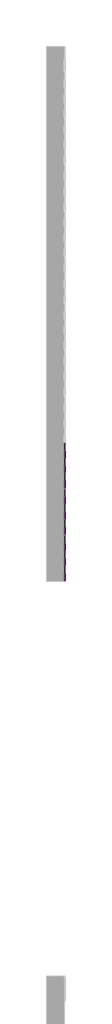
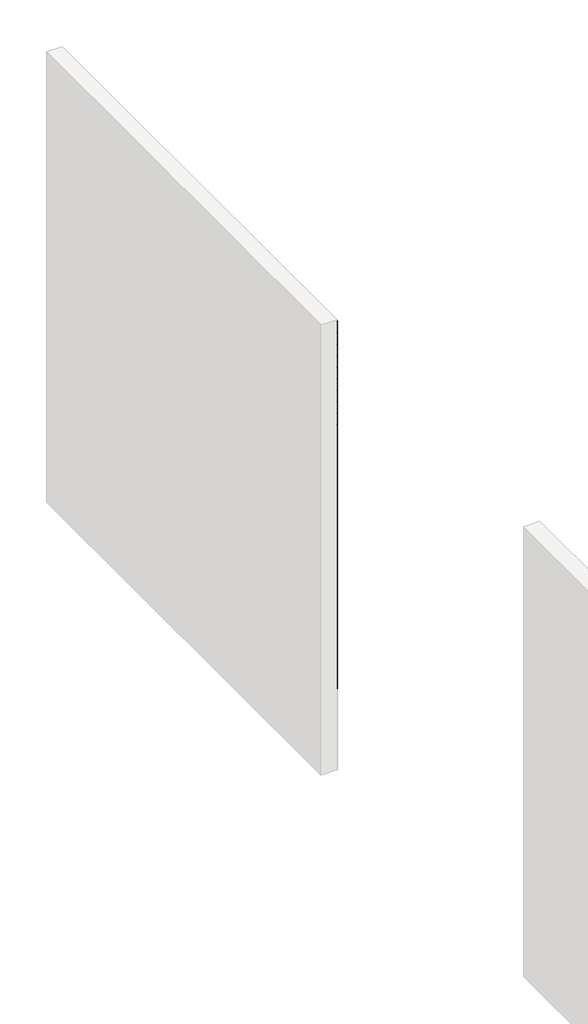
# One storey, part 9 of 45: 147 proxies.
"""IFC4 building model written with IfcOpenShell, lengths in millimetres."""

from ifc_helpers import new_model, si_unit, origin, place, context, project, spatial, transform, mapped, element, save
from components import generic_models_ab0f2c30

model = new_model("IFC4")

# Units and contexts
model_context = context("Model", 3, world=origin())
ifc_project = project(units=[si_unit("LENGTHUNIT", "METRE", prefix="MILLI")], contexts=[model_context])

# Site, building, storey
site = spatial("IfcSite", under=ifc_project)
building = spatial("IfcBuilding", under=site)
storey = spatial("IfcBuildingStorey", under=building, Name="PORTOBELLO - SHOWROOM", Elevation=0.0)

# Proxies
placement = place(None, origin())
generic_models_shape = generic_models_ab0f2c30(model_context)
element("IfcBuildingElementProxy", 1, Name="PBSHOP - HORIZONTES SANTORINI 6,5X23 : SANTORINI VILLA", ObjectType="PBSHOP - HORIZONTES SANTORINI 6,5X23 : SANTORINI VILLA", at=placement, inside=storey, context=model_context, shape_type="MappedRepresentation", body=[
    mapped(generic_models_shape, transform((63939.1036979, 11194.0312463, 34.5), x_axis=(0.0, 0.0, 1.0), y_axis=(0.0, -1.0, 0.0), z_axis=(1.0, 0.0, 0.0))),
])
element("IfcBuildingElementProxy", 2, Name="PBSHOP - HORIZONTES SANTORINI 6,5X23 : SANTORINI VILLA", ObjectType="PBSHOP - HORIZONTES SANTORINI 6,5X23 : SANTORINI VILLA", at=placement, inside=storey, context=model_context, shape_type="MappedRepresentation", body=[
    mapped(generic_models_shape, transform((63939.1036979, 11428.0312463, 34.5), x_axis=(0.0, 0.0, 1.0), y_axis=(0.0, -1.0, 0.0), z_axis=(1.0, 0.0, 0.0))),
])
element("IfcBuildingElementProxy", 3, Name="PBSHOP - HORIZONTES SANTORINI 6,5X23 : SANTORINI VILLA", ObjectType="PBSHOP - HORIZONTES SANTORINI 6,5X23 : SANTORINI VILLA", at=placement, inside=storey, context=model_context, shape_type="MappedRepresentation", body=[
    mapped(generic_models_shape, transform((63939.1036979, 11662.0312463, 34.5), x_axis=(0.0, 0.0, 1.0), y_axis=(0.0, -1.0, 0.0), z_axis=(1.0, 0.0, 0.0))),
])
element("IfcBuildingElementProxy", 4, Name="PBSHOP - HORIZONTES SANTORINI 6,5X23 : SANTORINI VILLA", ObjectType="PBSHOP - HORIZONTES SANTORINI 6,5X23 : SANTORINI VILLA", at=placement, inside=storey, context=model_context, shape_type="MappedRepresentation", body=[
    mapped(generic_models_shape, transform((63939.1036979, 11896.0312463, 34.5), x_axis=(0.0, 0.0, 1.0), y_axis=(0.0, -1.0, 0.0), z_axis=(1.0, 0.0, 0.0))),
])
element("IfcBuildingElementProxy", 5, Name="PBSHOP - HORIZONTES SANTORINI 6,5X23 : SANTORINI VILLA", ObjectType="PBSHOP - HORIZONTES SANTORINI 6,5X23 : SANTORINI VILLA", at=placement, inside=storey, context=model_context, shape_type="MappedRepresentation", body=[
    mapped(generic_models_shape, transform((63939.1036979, 11194.0312463, 103.5), x_axis=(0.0, 0.0, 1.0), y_axis=(0.0, -1.0, 0.0), z_axis=(1.0, 0.0, 0.0))),
])
element("IfcBuildingElementProxy", 6, Name="PBSHOP - HORIZONTES SANTORINI 6,5X23 : SANTORINI VILLA", ObjectType="PBSHOP - HORIZONTES SANTORINI 6,5X23 : SANTORINI VILLA", at=placement, inside=storey, context=model_context, shape_type="MappedRepresentation", body=[
    mapped(generic_models_shape, transform((63939.1036979, 11428.0312463, 103.5), x_axis=(0.0, 0.0, 1.0), y_axis=(0.0, -1.0, 0.0), z_axis=(1.0, 0.0, 0.0))),
])
element("IfcBuildingElementProxy", 7, Name="PBSHOP - HORIZONTES SANTORINI 6,5X23 : SANTORINI VILLA", ObjectType="PBSHOP - HORIZONTES SANTORINI 6,5X23 : SANTORINI VILLA", at=placement, inside=storey, context=model_context, shape_type="MappedRepresentation", body=[
    mapped(generic_models_shape, transform((63939.1036979, 11662.0312463, 103.5), x_axis=(0.0, 0.0, 1.0), y_axis=(0.0, -1.0, 0.0), z_axis=(1.0, 0.0, 0.0))),
])
element("IfcBuildingElementProxy", 8, Name="PBSHOP - HORIZONTES SANTORINI 6,5X23 : SANTORINI VILLA", ObjectType="PBSHOP - HORIZONTES SANTORINI 6,5X23 : SANTORINI VILLA", at=placement, inside=storey, context=model_context, shape_type="MappedRepresentation", body=[
    mapped(generic_models_shape, transform((63939.1036979, 11896.0312463, 103.5), x_axis=(0.0, 0.0, 1.0), y_axis=(0.0, -1.0, 0.0), z_axis=(1.0, 0.0, 0.0))),
])
element("IfcBuildingElementProxy", 9, Name="PBSHOP - HORIZONTES SANTORINI 6,5X23 : SANTORINI VILLA", ObjectType="PBSHOP - HORIZONTES SANTORINI 6,5X23 : SANTORINI VILLA", at=placement, inside=storey, context=model_context, shape_type="MappedRepresentation", body=[
    mapped(generic_models_shape, transform((63939.1036979, 11194.0312463, 172.5), x_axis=(0.0, 0.0, 1.0), y_axis=(0.0, -1.0, 0.0), z_axis=(1.0, 0.0, 0.0))),
])
element("IfcBuildingElementProxy", 10, Name="PBSHOP - HORIZONTES SANTORINI 6,5X23 : SANTORINI VILLA", ObjectType="PBSHOP - HORIZONTES SANTORINI 6,5X23 : SANTORINI VILLA", at=placement, inside=storey, context=model_context, shape_type="MappedRepresentation", body=[
    mapped(generic_models_shape, transform((63939.1036979, 11428.0312463, 172.5), x_axis=(0.0, 0.0, 1.0), y_axis=(0.0, -1.0, 0.0), z_axis=(1.0, 0.0, 0.0))),
])
element("IfcBuildingElementProxy", 11, Name="PBSHOP - HORIZONTES SANTORINI 6,5X23 : SANTORINI VILLA", ObjectType="PBSHOP - HORIZONTES SANTORINI 6,5X23 : SANTORINI VILLA", at=placement, inside=storey, context=model_context, shape_type="MappedRepresentation", body=[
    mapped(generic_models_shape, transform((63939.1036979, 11662.0312463, 172.5), x_axis=(0.0, 0.0, 1.0), y_axis=(0.0, -1.0, 0.0), z_axis=(1.0, 0.0, 0.0))),
])
element("IfcBuildingElementProxy", 12, Name="PBSHOP - HORIZONTES SANTORINI 6,5X23 : SANTORINI VILLA", ObjectType="PBSHOP - HORIZONTES SANTORINI 6,5X23 : SANTORINI VILLA", at=placement, inside=storey, context=model_context, shape_type="MappedRepresentation", body=[
    mapped(generic_models_shape, transform((63939.1036979, 11896.0312463, 172.5), x_axis=(0.0, 0.0, 1.0), y_axis=(0.0, -1.0, 0.0), z_axis=(1.0, 0.0, 0.0))),
])
element("IfcBuildingElementProxy", 13, Name="PBSHOP - HORIZONTES SANTORINI 6,5X23 : SANTORINI VILLA", ObjectType="PBSHOP - HORIZONTES SANTORINI 6,5X23 : SANTORINI VILLA", at=placement, inside=storey, context=model_context, shape_type="MappedRepresentation", body=[
    mapped(generic_models_shape, transform((63939.1036979, 11194.0312463, 241.5), x_axis=(0.0, 0.0, 1.0), y_axis=(0.0, -1.0, 0.0), z_axis=(1.0, 0.0, 0.0))),
])
element("IfcBuildingElementProxy", 14, Name="PBSHOP - HORIZONTES SANTORINI 6,5X23 : SANTORINI VILLA", ObjectType="PBSHOP - HORIZONTES SANTORINI 6,5X23 : SANTORINI VILLA", at=placement, inside=storey, context=model_context, shape_type="MappedRepresentation", body=[
    mapped(generic_models_shape, transform((63939.1036979, 11428.0312463, 241.5), x_axis=(0.0, 0.0, 1.0), y_axis=(0.0, -1.0, 0.0), z_axis=(1.0, 0.0, 0.0))),
])
element("IfcBuildingElementProxy", 15, Name="PBSHOP - HORIZONTES SANTORINI 6,5X23 : SANTORINI VILLA", ObjectType="PBSHOP - HORIZONTES SANTORINI 6,5X23 : SANTORINI VILLA", at=placement, inside=storey, context=model_context, shape_type="MappedRepresentation", body=[
    mapped(generic_models_shape, transform((63939.1036979, 11662.0312463, 241.5), x_axis=(0.0, 0.0, 1.0), y_axis=(0.0, -1.0, 0.0), z_axis=(1.0, 0.0, 0.0))),
])
element("IfcBuildingElementProxy", 16, Name="PBSHOP - HORIZONTES SANTORINI 6,5X23 : SANTORINI VILLA", ObjectType="PBSHOP - HORIZONTES SANTORINI 6,5X23 : SANTORINI VILLA", at=placement, inside=storey, context=model_context, shape_type="MappedRepresentation", body=[
    mapped(generic_models_shape, transform((63939.1036979, 11896.0312463, 241.5), x_axis=(0.0, 0.0, 1.0), y_axis=(0.0, -1.0, 0.0), z_axis=(1.0, 0.0, 0.0))),
])
element("IfcBuildingElementProxy", 17, Name="PBSHOP - HORIZONTES SANTORINI 6,5X23 : SANTORINI VILLA", ObjectType="PBSHOP - HORIZONTES SANTORINI 6,5X23 : SANTORINI VILLA", at=placement, inside=storey, context=model_context, shape_type="MappedRepresentation", body=[
    mapped(generic_models_shape, transform((63939.1036979, 11194.0312463, 310.5), x_axis=(0.0, 0.0, 1.0), y_axis=(0.0, -1.0, 0.0), z_axis=(1.0, 0.0, 0.0))),
])
element("IfcBuildingElementProxy", 18, Name="PBSHOP - HORIZONTES SANTORINI 6,5X23 : SANTORINI VILLA", ObjectType="PBSHOP - HORIZONTES SANTORINI 6,5X23 : SANTORINI VILLA", at=placement, inside=storey, context=model_context, shape_type="MappedRepresentation", body=[
    mapped(generic_models_shape, transform((63939.1036979, 11428.0312463, 310.5), x_axis=(0.0, 0.0, 1.0), y_axis=(0.0, -1.0, 0.0), z_axis=(1.0, 0.0, 0.0))),
])
element("IfcBuildingElementProxy", 19, Name="PBSHOP - HORIZONTES SANTORINI 6,5X23 : SANTORINI VILLA", ObjectType="PBSHOP - HORIZONTES SANTORINI 6,5X23 : SANTORINI VILLA", at=placement, inside=storey, context=model_context, shape_type="MappedRepresentation", body=[
    mapped(generic_models_shape, transform((63939.1036979, 11662.0312463, 310.5), x_axis=(0.0, 0.0, 1.0), y_axis=(0.0, -1.0, 0.0), z_axis=(1.0, 0.0, 0.0))),
])
element("IfcBuildingElementProxy", 20, Name="PBSHOP - HORIZONTES SANTORINI 6,5X23 : SANTORINI VILLA", ObjectType="PBSHOP - HORIZONTES SANTORINI 6,5X23 : SANTORINI VILLA", at=placement, inside=storey, context=model_context, shape_type="MappedRepresentation", body=[
    mapped(generic_models_shape, transform((63939.1036979, 11896.0312463, 310.5), x_axis=(0.0, 0.0, 1.0), y_axis=(0.0, -1.0, 0.0), z_axis=(1.0, 0.0, 0.0))),
])
element("IfcBuildingElementProxy", 21, Name="PBSHOP - HORIZONTES SANTORINI 6,5X23 : SANTORINI VILLA", ObjectType="PBSHOP - HORIZONTES SANTORINI 6,5X23 : SANTORINI VILLA", at=placement, inside=storey, context=model_context, shape_type="MappedRepresentation", body=[
    mapped(generic_models_shape, transform((63939.1036979, 11194.0312463, 379.5), x_axis=(0.0, 0.0, 1.0), y_axis=(0.0, -1.0, 0.0), z_axis=(1.0, 0.0, 0.0))),
])
element("IfcBuildingElementProxy", 22, Name="PBSHOP - HORIZONTES SANTORINI 6,5X23 : SANTORINI VILLA", ObjectType="PBSHOP - HORIZONTES SANTORINI 6,5X23 : SANTORINI VILLA", at=placement, inside=storey, context=model_context, shape_type="MappedRepresentation", body=[
    mapped(generic_models_shape, transform((63939.1036979, 11428.0312463, 379.5), x_axis=(0.0, 0.0, 1.0), y_axis=(0.0, -1.0, 0.0), z_axis=(1.0, 0.0, 0.0))),
])
element("IfcBuildingElementProxy", 23, Name="PBSHOP - HORIZONTES SANTORINI 6,5X23 : SANTORINI VILLA", ObjectType="PBSHOP - HORIZONTES SANTORINI 6,5X23 : SANTORINI VILLA", at=placement, inside=storey, context=model_context, shape_type="MappedRepresentation", body=[
    mapped(generic_models_shape, transform((63939.1036979, 11662.0312463, 379.5), x_axis=(0.0, 0.0, 1.0), y_axis=(0.0, -1.0, 0.0), z_axis=(1.0, 0.0, 0.0))),
])
element("IfcBuildingElementProxy", 24, Name="PBSHOP - HORIZONTES SANTORINI 6,5X23 : SANTORINI VILLA", ObjectType="PBSHOP - HORIZONTES SANTORINI 6,5X23 : SANTORINI VILLA", at=placement, inside=storey, context=model_context, shape_type="MappedRepresentation", body=[
    mapped(generic_models_shape, transform((63939.1036979, 11896.0312463, 379.5), x_axis=(0.0, 0.0, 1.0), y_axis=(0.0, -1.0, 0.0), z_axis=(1.0, 0.0, 0.0))),
])
element("IfcBuildingElementProxy", 25, Name="PBSHOP - HORIZONTES SANTORINI 6,5X23 : SANTORINI VILLA", ObjectType="PBSHOP - HORIZONTES SANTORINI 6,5X23 : SANTORINI VILLA", at=placement, inside=storey, context=model_context, shape_type="MappedRepresentation", body=[
    mapped(generic_models_shape, transform((63939.1036979, 11194.0312463, 448.5), x_axis=(0.0, 0.0, 1.0), y_axis=(0.0, -1.0, 0.0), z_axis=(1.0, 0.0, 0.0))),
])
element("IfcBuildingElementProxy", 26, Name="PBSHOP - HORIZONTES SANTORINI 6,5X23 : SANTORINI VILLA", ObjectType="PBSHOP - HORIZONTES SANTORINI 6,5X23 : SANTORINI VILLA", at=placement, inside=storey, context=model_context, shape_type="MappedRepresentation", body=[
    mapped(generic_models_shape, transform((63939.1036979, 11428.0312463, 448.5), x_axis=(0.0, 0.0, 1.0), y_axis=(0.0, -1.0, 0.0), z_axis=(1.0, 0.0, 0.0))),
])
element("IfcBuildingElementProxy", 27, Name="PBSHOP - HORIZONTES SANTORINI 6,5X23 : SANTORINI VILLA", ObjectType="PBSHOP - HORIZONTES SANTORINI 6,5X23 : SANTORINI VILLA", at=placement, inside=storey, context=model_context, shape_type="MappedRepresentation", body=[
    mapped(generic_models_shape, transform((63939.1036979, 11662.0312463, 448.5), x_axis=(0.0, 0.0, 1.0), y_axis=(0.0, -1.0, 0.0), z_axis=(1.0, 0.0, 0.0))),
])
element("IfcBuildingElementProxy", 28, Name="PBSHOP - HORIZONTES SANTORINI 6,5X23 : SANTORINI VILLA", ObjectType="PBSHOP - HORIZONTES SANTORINI 6,5X23 : SANTORINI VILLA", at=placement, inside=storey, context=model_context, shape_type="MappedRepresentation", body=[
    mapped(generic_models_shape, transform((63939.1036979, 11896.0312463, 448.5), x_axis=(0.0, 0.0, 1.0), y_axis=(0.0, -1.0, 0.0), z_axis=(1.0, 0.0, 0.0))),
])
element("IfcBuildingElementProxy", 29, Name="PBSHOP - HORIZONTES SANTORINI 6,5X23 : SANTORINI VILLA", ObjectType="PBSHOP - HORIZONTES SANTORINI 6,5X23 : SANTORINI VILLA", at=placement, inside=storey, context=model_context, shape_type="MappedRepresentation", body=[
    mapped(generic_models_shape, transform((63939.1036979, 10492.0312463, 517.5), x_axis=(0.0, 0.0, 1.0), y_axis=(0.0, -1.0, 0.0), z_axis=(1.0, 0.0, 0.0))),
])
element("IfcBuildingElementProxy", 30, Name="PBSHOP - HORIZONTES SANTORINI 6,5X23 : SANTORINI VILLA", ObjectType="PBSHOP - HORIZONTES SANTORINI 6,5X23 : SANTORINI VILLA", at=placement, inside=storey, context=model_context, shape_type="MappedRepresentation", body=[
    mapped(generic_models_shape, transform((63939.1036979, 10726.0312463, 517.5), x_axis=(0.0, 0.0, 1.0), y_axis=(0.0, -1.0, 0.0), z_axis=(1.0, 0.0, 0.0))),
])
element("IfcBuildingElementProxy", 31, Name="PBSHOP - HORIZONTES SANTORINI 6,5X23 : SANTORINI VILLA", ObjectType="PBSHOP - HORIZONTES SANTORINI 6,5X23 : SANTORINI VILLA", at=placement, inside=storey, context=model_context, shape_type="MappedRepresentation", body=[
    mapped(generic_models_shape, transform((63939.1036979, 10960.0312463, 517.5), x_axis=(0.0, 0.0, 1.0), y_axis=(0.0, -1.0, 0.0), z_axis=(1.0, 0.0, 0.0))),
])
element("IfcBuildingElementProxy", 32, Name="PBSHOP - HORIZONTES SANTORINI 6,5X23 : SANTORINI VILLA", ObjectType="PBSHOP - HORIZONTES SANTORINI 6,5X23 : SANTORINI VILLA", at=placement, inside=storey, context=model_context, shape_type="MappedRepresentation", body=[
    mapped(generic_models_shape, transform((63939.1036979, 11194.0312463, 517.5), x_axis=(0.0, 0.0, 1.0), y_axis=(0.0, -1.0, 0.0), z_axis=(1.0, 0.0, 0.0))),
])
element("IfcBuildingElementProxy", 33, Name="PBSHOP - HORIZONTES SANTORINI 6,5X23 : SANTORINI VILLA", ObjectType="PBSHOP - HORIZONTES SANTORINI 6,5X23 : SANTORINI VILLA", at=placement, inside=storey, context=model_context, shape_type="MappedRepresentation", body=[
    mapped(generic_models_shape, transform((63939.1036979, 11428.0312463, 517.5), x_axis=(0.0, 0.0, 1.0), y_axis=(0.0, -1.0, 0.0), z_axis=(1.0, 0.0, 0.0))),
])
element("IfcBuildingElementProxy", 34, Name="PBSHOP - HORIZONTES SANTORINI 6,5X23 : SANTORINI VILLA", ObjectType="PBSHOP - HORIZONTES SANTORINI 6,5X23 : SANTORINI VILLA", at=placement, inside=storey, context=model_context, shape_type="MappedRepresentation", body=[
    mapped(generic_models_shape, transform((63939.1036979, 11662.0312463, 517.5), x_axis=(0.0, 0.0, 1.0), y_axis=(0.0, -1.0, 0.0), z_axis=(1.0, 0.0, 0.0))),
])
element("IfcBuildingElementProxy", 35, Name="PBSHOP - HORIZONTES SANTORINI 6,5X23 : SANTORINI VILLA", ObjectType="PBSHOP - HORIZONTES SANTORINI 6,5X23 : SANTORINI VILLA", at=placement, inside=storey, context=model_context, shape_type="MappedRepresentation", body=[
    mapped(generic_models_shape, transform((63939.1036979, 11896.0312463, 517.5), x_axis=(0.0, 0.0, 1.0), y_axis=(0.0, -1.0, 0.0), z_axis=(1.0, 0.0, 0.0))),
])
element("IfcBuildingElementProxy", 36, Name="PBSHOP - HORIZONTES SANTORINI 6,5X23 : SANTORINI VILLA", ObjectType="PBSHOP - HORIZONTES SANTORINI 6,5X23 : SANTORINI VILLA", at=placement, inside=storey, context=model_context, shape_type="MappedRepresentation", body=[
    mapped(generic_models_shape, transform((63939.1036979, 10492.0312463, 586.5), x_axis=(0.0, 0.0, 1.0), y_axis=(0.0, -1.0, 0.0), z_axis=(1.0, 0.0, 0.0))),
])
element("IfcBuildingElementProxy", 37, Name="PBSHOP - HORIZONTES SANTORINI 6,5X23 : SANTORINI VILLA", ObjectType="PBSHOP - HORIZONTES SANTORINI 6,5X23 : SANTORINI VILLA", at=placement, inside=storey, context=model_context, shape_type="MappedRepresentation", body=[
    mapped(generic_models_shape, transform((63939.1036979, 10726.0312463, 586.5), x_axis=(0.0, 0.0, 1.0), y_axis=(0.0, -1.0, 0.0), z_axis=(1.0, 0.0, 0.0))),
])
element("IfcBuildingElementProxy", 38, Name="PBSHOP - HORIZONTES SANTORINI 6,5X23 : SANTORINI VILLA", ObjectType="PBSHOP - HORIZONTES SANTORINI 6,5X23 : SANTORINI VILLA", at=placement, inside=storey, context=model_context, shape_type="MappedRepresentation", body=[
    mapped(generic_models_shape, transform((63939.1036979, 10960.0312463, 586.5), x_axis=(0.0, 0.0, 1.0), y_axis=(0.0, -1.0, 0.0), z_axis=(1.0, 0.0, 0.0))),
])
element("IfcBuildingElementProxy", 39, Name="PBSHOP - HORIZONTES SANTORINI 6,5X23 : SANTORINI VILLA", ObjectType="PBSHOP - HORIZONTES SANTORINI 6,5X23 : SANTORINI VILLA", at=placement, inside=storey, context=model_context, shape_type="MappedRepresentation", body=[
    mapped(generic_models_shape, transform((63939.1036979, 11194.0312463, 586.5), x_axis=(0.0, 0.0, 1.0), y_axis=(0.0, -1.0, 0.0), z_axis=(1.0, 0.0, 0.0))),
])
element("IfcBuildingElementProxy", 40, Name="PBSHOP - HORIZONTES SANTORINI 6,5X23 : SANTORINI VILLA", ObjectType="PBSHOP - HORIZONTES SANTORINI 6,5X23 : SANTORINI VILLA", at=placement, inside=storey, context=model_context, shape_type="MappedRepresentation", body=[
    mapped(generic_models_shape, transform((63939.1036979, 11428.0312463, 586.5), x_axis=(0.0, 0.0, 1.0), y_axis=(0.0, -1.0, 0.0), z_axis=(1.0, 0.0, 0.0))),
])
element("IfcBuildingElementProxy", 41, Name="PBSHOP - HORIZONTES SANTORINI 6,5X23 : SANTORINI VILLA", ObjectType="PBSHOP - HORIZONTES SANTORINI 6,5X23 : SANTORINI VILLA", at=placement, inside=storey, context=model_context, shape_type="MappedRepresentation", body=[
    mapped(generic_models_shape, transform((63939.1036979, 11662.0312463, 586.5), x_axis=(0.0, 0.0, 1.0), y_axis=(0.0, -1.0, 0.0), z_axis=(1.0, 0.0, 0.0))),
])
element("IfcBuildingElementProxy", 42, Name="PBSHOP - HORIZONTES SANTORINI 6,5X23 : SANTORINI VILLA", ObjectType="PBSHOP - HORIZONTES SANTORINI 6,5X23 : SANTORINI VILLA", at=placement, inside=storey, context=model_context, shape_type="MappedRepresentation", body=[
    mapped(generic_models_shape, transform((63939.1036979, 11896.0312463, 586.5), x_axis=(0.0, 0.0, 1.0), y_axis=(0.0, -1.0, 0.0), z_axis=(1.0, 0.0, 0.0))),
])
element("IfcBuildingElementProxy", 43, Name="PBSHOP - HORIZONTES SANTORINI 6,5X23 : SANTORINI VILLA", ObjectType="PBSHOP - HORIZONTES SANTORINI 6,5X23 : SANTORINI VILLA", at=placement, inside=storey, context=model_context, shape_type="MappedRepresentation", body=[
    mapped(generic_models_shape, transform((63939.1036979, 10492.0312463, 655.5), x_axis=(0.0, 0.0, 1.0), y_axis=(0.0, -1.0, 0.0), z_axis=(1.0, 0.0, 0.0))),
])
element("IfcBuildingElementProxy", 44, Name="PBSHOP - HORIZONTES SANTORINI 6,5X23 : SANTORINI VILLA", ObjectType="PBSHOP - HORIZONTES SANTORINI 6,5X23 : SANTORINI VILLA", at=placement, inside=storey, context=model_context, shape_type="MappedRepresentation", body=[
    mapped(generic_models_shape, transform((63939.1036979, 10726.0312463, 655.5), x_axis=(0.0, 0.0, 1.0), y_axis=(0.0, -1.0, 0.0), z_axis=(1.0, 0.0, 0.0))),
])
element("IfcBuildingElementProxy", 45, Name="PBSHOP - HORIZONTES SANTORINI 6,5X23 : SANTORINI VILLA", ObjectType="PBSHOP - HORIZONTES SANTORINI 6,5X23 : SANTORINI VILLA", at=placement, inside=storey, context=model_context, shape_type="MappedRepresentation", body=[
    mapped(generic_models_shape, transform((63939.1036979, 10960.0312463, 655.5), x_axis=(0.0, 0.0, 1.0), y_axis=(0.0, -1.0, 0.0), z_axis=(1.0, 0.0, 0.0))),
])
element("IfcBuildingElementProxy", 46, Name="PBSHOP - HORIZONTES SANTORINI 6,5X23 : SANTORINI VILLA", ObjectType="PBSHOP - HORIZONTES SANTORINI 6,5X23 : SANTORINI VILLA", at=placement, inside=storey, context=model_context, shape_type="MappedRepresentation", body=[
    mapped(generic_models_shape, transform((63939.1036979, 11194.0312463, 655.5), x_axis=(0.0, 0.0, 1.0), y_axis=(0.0, -1.0, 0.0), z_axis=(1.0, 0.0, 0.0))),
])
element("IfcBuildingElementProxy", 47, Name="PBSHOP - HORIZONTES SANTORINI 6,5X23 : SANTORINI VILLA", ObjectType="PBSHOP - HORIZONTES SANTORINI 6,5X23 : SANTORINI VILLA", at=placement, inside=storey, context=model_context, shape_type="MappedRepresentation", body=[
    mapped(generic_models_shape, transform((63939.1036979, 11428.0312463, 655.5), x_axis=(0.0, 0.0, 1.0), y_axis=(0.0, -1.0, 0.0), z_axis=(1.0, 0.0, 0.0))),
])
element("IfcBuildingElementProxy", 48, Name="PBSHOP - HORIZONTES SANTORINI 6,5X23 : SANTORINI VILLA", ObjectType="PBSHOP - HORIZONTES SANTORINI 6,5X23 : SANTORINI VILLA", at=placement, inside=storey, context=model_context, shape_type="MappedRepresentation", body=[
    mapped(generic_models_shape, transform((63939.1036979, 11662.0312463, 655.5), x_axis=(0.0, 0.0, 1.0), y_axis=(0.0, -1.0, 0.0), z_axis=(1.0, 0.0, 0.0))),
])
element("IfcBuildingElementProxy", 49, Name="PBSHOP - HORIZONTES SANTORINI 6,5X23 : SANTORINI VILLA", ObjectType="PBSHOP - HORIZONTES SANTORINI 6,5X23 : SANTORINI VILLA", at=placement, inside=storey, context=model_context, shape_type="MappedRepresentation", body=[
    mapped(generic_models_shape, transform((63939.1036979, 11896.0312463, 655.5), x_axis=(0.0, 0.0, 1.0), y_axis=(0.0, -1.0, 0.0), z_axis=(1.0, 0.0, 0.0))),
])
element("IfcBuildingElementProxy", 50, Name="PBSHOP - HORIZONTES SANTORINI 6,5X23 : SANTORINI VILLA", ObjectType="PBSHOP - HORIZONTES SANTORINI 6,5X23 : SANTORINI VILLA", at=placement, inside=storey, context=model_context, shape_type="MappedRepresentation", body=[
    mapped(generic_models_shape, transform((63939.1036979, 10492.0312463, 724.5), x_axis=(0.0, 0.0, 1.0), y_axis=(0.0, -1.0, 0.0), z_axis=(1.0, 0.0, 0.0))),
])
element("IfcBuildingElementProxy", 51, Name="PBSHOP - HORIZONTES SANTORINI 6,5X23 : SANTORINI VILLA", ObjectType="PBSHOP - HORIZONTES SANTORINI 6,5X23 : SANTORINI VILLA", at=placement, inside=storey, context=model_context, shape_type="MappedRepresentation", body=[
    mapped(generic_models_shape, transform((63939.1036979, 10726.0312463, 724.5), x_axis=(0.0, 0.0, 1.0), y_axis=(0.0, -1.0, 0.0), z_axis=(1.0, 0.0, 0.0))),
])
element("IfcBuildingElementProxy", 52, Name="PBSHOP - HORIZONTES SANTORINI 6,5X23 : SANTORINI VILLA", ObjectType="PBSHOP - HORIZONTES SANTORINI 6,5X23 : SANTORINI VILLA", at=placement, inside=storey, context=model_context, shape_type="MappedRepresentation", body=[
    mapped(generic_models_shape, transform((63939.1036979, 10960.0312463, 724.5), x_axis=(0.0, 0.0, 1.0), y_axis=(0.0, -1.0, 0.0), z_axis=(1.0, 0.0, 0.0))),
])
element("IfcBuildingElementProxy", 53, Name="PBSHOP - HORIZONTES SANTORINI 6,5X23 : SANTORINI VILLA", ObjectType="PBSHOP - HORIZONTES SANTORINI 6,5X23 : SANTORINI VILLA", at=placement, inside=storey, context=model_context, shape_type="MappedRepresentation", body=[
    mapped(generic_models_shape, transform((63939.1036979, 11194.0312463, 724.5), x_axis=(0.0, 0.0, 1.0), y_axis=(0.0, -1.0, 0.0), z_axis=(1.0, 0.0, 0.0))),
])
element("IfcBuildingElementProxy", 54, Name="PBSHOP - HORIZONTES SANTORINI 6,5X23 : SANTORINI VILLA", ObjectType="PBSHOP - HORIZONTES SANTORINI 6,5X23 : SANTORINI VILLA", at=placement, inside=storey, context=model_context, shape_type="MappedRepresentation", body=[
    mapped(generic_models_shape, transform((63939.1036979, 11428.0312463, 724.5), x_axis=(0.0, 0.0, 1.0), y_axis=(0.0, -1.0, 0.0), z_axis=(1.0, 0.0, 0.0))),
])
element("IfcBuildingElementProxy", 55, Name="PBSHOP - HORIZONTES SANTORINI 6,5X23 : SANTORINI VILLA", ObjectType="PBSHOP - HORIZONTES SANTORINI 6,5X23 : SANTORINI VILLA", at=placement, inside=storey, context=model_context, shape_type="MappedRepresentation", body=[
    mapped(generic_models_shape, transform((63939.1036979, 11662.0312463, 724.5), x_axis=(0.0, 0.0, 1.0), y_axis=(0.0, -1.0, 0.0), z_axis=(1.0, 0.0, 0.0))),
])
element("IfcBuildingElementProxy", 56, Name="PBSHOP - HORIZONTES SANTORINI 6,5X23 : SANTORINI VILLA", ObjectType="PBSHOP - HORIZONTES SANTORINI 6,5X23 : SANTORINI VILLA", at=placement, inside=storey, context=model_context, shape_type="MappedRepresentation", body=[
    mapped(generic_models_shape, transform((63939.1036979, 11896.0312463, 724.5), x_axis=(0.0, 0.0, 1.0), y_axis=(0.0, -1.0, 0.0), z_axis=(1.0, 0.0, 0.0))),
])
element("IfcBuildingElementProxy", 57, Name="PBSHOP - HORIZONTES SANTORINI 6,5X23 : SANTORINI VILLA", ObjectType="PBSHOP - HORIZONTES SANTORINI 6,5X23 : SANTORINI VILLA", at=placement, inside=storey, context=model_context, shape_type="MappedRepresentation", body=[
    mapped(generic_models_shape, transform((63939.1036979, 10492.0312463, 793.5), x_axis=(0.0, 0.0, 1.0), y_axis=(0.0, -1.0, 0.0), z_axis=(1.0, 0.0, 0.0))),
])
element("IfcBuildingElementProxy", 58, Name="PBSHOP - HORIZONTES SANTORINI 6,5X23 : SANTORINI VILLA", ObjectType="PBSHOP - HORIZONTES SANTORINI 6,5X23 : SANTORINI VILLA", at=placement, inside=storey, context=model_context, shape_type="MappedRepresentation", body=[
    mapped(generic_models_shape, transform((63939.1036979, 10726.0312463, 793.5), x_axis=(0.0, 0.0, 1.0), y_axis=(0.0, -1.0, 0.0), z_axis=(1.0, 0.0, 0.0))),
])
element("IfcBuildingElementProxy", 59, Name="PBSHOP - HORIZONTES SANTORINI 6,5X23 : SANTORINI VILLA", ObjectType="PBSHOP - HORIZONTES SANTORINI 6,5X23 : SANTORINI VILLA", at=placement, inside=storey, context=model_context, shape_type="MappedRepresentation", body=[
    mapped(generic_models_shape, transform((63939.1036979, 10960.0312463, 793.5), x_axis=(0.0, 0.0, 1.0), y_axis=(0.0, -1.0, 0.0), z_axis=(1.0, 0.0, 0.0))),
])
element("IfcBuildingElementProxy", 60, Name="PBSHOP - HORIZONTES SANTORINI 6,5X23 : SANTORINI VILLA", ObjectType="PBSHOP - HORIZONTES SANTORINI 6,5X23 : SANTORINI VILLA", at=placement, inside=storey, context=model_context, shape_type="MappedRepresentation", body=[
    mapped(generic_models_shape, transform((63939.1036979, 11194.0312463, 793.5), x_axis=(0.0, 0.0, 1.0), y_axis=(0.0, -1.0, 0.0), z_axis=(1.0, 0.0, 0.0))),
])
element("IfcBuildingElementProxy", 61, Name="PBSHOP - HORIZONTES SANTORINI 6,5X23 : SANTORINI VILLA", ObjectType="PBSHOP - HORIZONTES SANTORINI 6,5X23 : SANTORINI VILLA", at=placement, inside=storey, context=model_context, shape_type="MappedRepresentation", body=[
    mapped(generic_models_shape, transform((63939.1036979, 11428.0312463, 793.5), x_axis=(0.0, 0.0, 1.0), y_axis=(0.0, -1.0, 0.0), z_axis=(1.0, 0.0, 0.0))),
])
element("IfcBuildingElementProxy", 62, Name="PBSHOP - HORIZONTES SANTORINI 6,5X23 : SANTORINI VILLA", ObjectType="PBSHOP - HORIZONTES SANTORINI 6,5X23 : SANTORINI VILLA", at=placement, inside=storey, context=model_context, shape_type="MappedRepresentation", body=[
    mapped(generic_models_shape, transform((63939.1036979, 11662.0312463, 793.5), x_axis=(0.0, 0.0, 1.0), y_axis=(0.0, -1.0, 0.0), z_axis=(1.0, 0.0, 0.0))),
])
element("IfcBuildingElementProxy", 63, Name="PBSHOP - HORIZONTES SANTORINI 6,5X23 : SANTORINI VILLA", ObjectType="PBSHOP - HORIZONTES SANTORINI 6,5X23 : SANTORINI VILLA", at=placement, inside=storey, context=model_context, shape_type="MappedRepresentation", body=[
    mapped(generic_models_shape, transform((63939.1036979, 11896.0312463, 793.5), x_axis=(0.0, 0.0, 1.0), y_axis=(0.0, -1.0, 0.0), z_axis=(1.0, 0.0, 0.0))),
])
element("IfcBuildingElementProxy", 64, Name="PBSHOP - HORIZONTES SANTORINI 6,5X23 : SANTORINI VILLA", ObjectType="PBSHOP - HORIZONTES SANTORINI 6,5X23 : SANTORINI VILLA", at=placement, inside=storey, context=model_context, shape_type="MappedRepresentation", body=[
    mapped(generic_models_shape, transform((63939.1036979, 10492.0312463, 862.5), x_axis=(0.0, 0.0, 1.0), y_axis=(0.0, -1.0, 0.0), z_axis=(1.0, 0.0, 0.0))),
])
element("IfcBuildingElementProxy", 65, Name="PBSHOP - HORIZONTES SANTORINI 6,5X23 : SANTORINI VILLA", ObjectType="PBSHOP - HORIZONTES SANTORINI 6,5X23 : SANTORINI VILLA", at=placement, inside=storey, context=model_context, shape_type="MappedRepresentation", body=[
    mapped(generic_models_shape, transform((63939.1036979, 10726.0312463, 862.5), x_axis=(0.0, 0.0, 1.0), y_axis=(0.0, -1.0, 0.0), z_axis=(1.0, 0.0, 0.0))),
])
element("IfcBuildingElementProxy", 66, Name="PBSHOP - HORIZONTES SANTORINI 6,5X23 : SANTORINI VILLA", ObjectType="PBSHOP - HORIZONTES SANTORINI 6,5X23 : SANTORINI VILLA", at=placement, inside=storey, context=model_context, shape_type="MappedRepresentation", body=[
    mapped(generic_models_shape, transform((63939.1036979, 10960.0312463, 862.5), x_axis=(0.0, 0.0, 1.0), y_axis=(0.0, -1.0, 0.0), z_axis=(1.0, 0.0, 0.0))),
])
element("IfcBuildingElementProxy", 67, Name="PBSHOP - HORIZONTES SANTORINI 6,5X23 : SANTORINI VILLA", ObjectType="PBSHOP - HORIZONTES SANTORINI 6,5X23 : SANTORINI VILLA", at=placement, inside=storey, context=model_context, shape_type="MappedRepresentation", body=[
    mapped(generic_models_shape, transform((63939.1036979, 11194.0312463, 862.5), x_axis=(0.0, 0.0, 1.0), y_axis=(0.0, -1.0, 0.0), z_axis=(1.0, 0.0, 0.0))),
])
element("IfcBuildingElementProxy", 68, Name="PBSHOP - HORIZONTES SANTORINI 6,5X23 : SANTORINI VILLA", ObjectType="PBSHOP - HORIZONTES SANTORINI 6,5X23 : SANTORINI VILLA", at=placement, inside=storey, context=model_context, shape_type="MappedRepresentation", body=[
    mapped(generic_models_shape, transform((63939.1036979, 11428.0312463, 862.5), x_axis=(0.0, 0.0, 1.0), y_axis=(0.0, -1.0, 0.0), z_axis=(1.0, 0.0, 0.0))),
])
element("IfcBuildingElementProxy", 69, Name="PBSHOP - HORIZONTES SANTORINI 6,5X23 : SANTORINI VILLA", ObjectType="PBSHOP - HORIZONTES SANTORINI 6,5X23 : SANTORINI VILLA", at=placement, inside=storey, context=model_context, shape_type="MappedRepresentation", body=[
    mapped(generic_models_shape, transform((63939.1036979, 11662.0312463, 862.5), x_axis=(0.0, 0.0, 1.0), y_axis=(0.0, -1.0, 0.0), z_axis=(1.0, 0.0, 0.0))),
])
element("IfcBuildingElementProxy", 70, Name="PBSHOP - HORIZONTES SANTORINI 6,5X23 : SANTORINI VILLA", ObjectType="PBSHOP - HORIZONTES SANTORINI 6,5X23 : SANTORINI VILLA", at=placement, inside=storey, context=model_context, shape_type="MappedRepresentation", body=[
    mapped(generic_models_shape, transform((63939.1036979, 10492.0312463, 931.5), x_axis=(0.0, 0.0, 1.0), y_axis=(0.0, -1.0, 0.0), z_axis=(1.0, 0.0, 0.0))),
])
element("IfcBuildingElementProxy", 71, Name="PBSHOP - HORIZONTES SANTORINI 6,5X23 : SANTORINI VILLA", ObjectType="PBSHOP - HORIZONTES SANTORINI 6,5X23 : SANTORINI VILLA", at=placement, inside=storey, context=model_context, shape_type="MappedRepresentation", body=[
    mapped(generic_models_shape, transform((63939.1036979, 10726.0312463, 931.5), x_axis=(0.0, 0.0, 1.0), y_axis=(0.0, -1.0, 0.0), z_axis=(1.0, 0.0, 0.0))),
])
element("IfcBuildingElementProxy", 72, Name="PBSHOP - HORIZONTES SANTORINI 6,5X23 : SANTORINI VILLA", ObjectType="PBSHOP - HORIZONTES SANTORINI 6,5X23 : SANTORINI VILLA", at=placement, inside=storey, context=model_context, shape_type="MappedRepresentation", body=[
    mapped(generic_models_shape, transform((63939.1036979, 10960.0312463, 931.5), x_axis=(0.0, 0.0, 1.0), y_axis=(0.0, -1.0, 0.0), z_axis=(1.0, 0.0, 0.0))),
])
element("IfcBuildingElementProxy", 73, Name="PBSHOP - HORIZONTES SANTORINI 6,5X23 : SANTORINI VILLA", ObjectType="PBSHOP - HORIZONTES SANTORINI 6,5X23 : SANTORINI VILLA", at=placement, inside=storey, context=model_context, shape_type="MappedRepresentation", body=[
    mapped(generic_models_shape, transform((63939.1036979, 10492.0312463, 1000.5), x_axis=(0.0, 0.0, 1.0), y_axis=(0.0, -1.0, 0.0), z_axis=(1.0, 0.0, 0.0))),
])
element("IfcBuildingElementProxy", 74, Name="PBSHOP - HORIZONTES SANTORINI 6,5X23 : SANTORINI VILLA", ObjectType="PBSHOP - HORIZONTES SANTORINI 6,5X23 : SANTORINI VILLA", at=placement, inside=storey, context=model_context, shape_type="MappedRepresentation", body=[
    mapped(generic_models_shape, transform((63939.1036979, 10726.0312463, 1000.5), x_axis=(0.0, 0.0, 1.0), y_axis=(0.0, -1.0, 0.0), z_axis=(1.0, 0.0, 0.0))),
])
element("IfcBuildingElementProxy", 75, Name="PBSHOP - HORIZONTES SANTORINI 6,5X23 : SANTORINI VILLA", ObjectType="PBSHOP - HORIZONTES SANTORINI 6,5X23 : SANTORINI VILLA", at=placement, inside=storey, context=model_context, shape_type="MappedRepresentation", body=[
    mapped(generic_models_shape, transform((63939.1036979, 10960.0312463, 1000.5), x_axis=(0.0, 0.0, 1.0), y_axis=(0.0, -1.0, 0.0), z_axis=(1.0, 0.0, 0.0))),
])
element("IfcBuildingElementProxy", 76, Name="PBSHOP - HORIZONTES SANTORINI 6,5X23 : SANTORINI VILLA", ObjectType="PBSHOP - HORIZONTES SANTORINI 6,5X23 : SANTORINI VILLA", at=placement, inside=storey, context=model_context, shape_type="MappedRepresentation", body=[
    mapped(generic_models_shape, transform((63939.1036979, 10492.0312463, 1069.5), x_axis=(0.0, 0.0, 1.0), y_axis=(0.0, -1.0, 0.0), z_axis=(1.0, 0.0, 0.0))),
])
element("IfcBuildingElementProxy", 77, Name="PBSHOP - HORIZONTES SANTORINI 6,5X23 : SANTORINI VILLA", ObjectType="PBSHOP - HORIZONTES SANTORINI 6,5X23 : SANTORINI VILLA", at=placement, inside=storey, context=model_context, shape_type="MappedRepresentation", body=[
    mapped(generic_models_shape, transform((63939.1036979, 10726.0312463, 1069.5), x_axis=(0.0, 0.0, 1.0), y_axis=(0.0, -1.0, 0.0), z_axis=(1.0, 0.0, 0.0))),
])
element("IfcBuildingElementProxy", 78, Name="PBSHOP - HORIZONTES SANTORINI 6,5X23 : SANTORINI VILLA", ObjectType="PBSHOP - HORIZONTES SANTORINI 6,5X23 : SANTORINI VILLA", at=placement, inside=storey, context=model_context, shape_type="MappedRepresentation", body=[
    mapped(generic_models_shape, transform((63939.1036979, 10960.0312463, 1069.5), x_axis=(0.0, 0.0, 1.0), y_axis=(0.0, -1.0, 0.0), z_axis=(1.0, 0.0, 0.0))),
])
element("IfcBuildingElementProxy", 79, Name="PBSHOP - HORIZONTES SANTORINI 6,5X23 : SANTORINI VILLA", ObjectType="PBSHOP - HORIZONTES SANTORINI 6,5X23 : SANTORINI VILLA", at=placement, inside=storey, context=model_context, shape_type="MappedRepresentation", body=[
    mapped(generic_models_shape, transform((63939.1036979, 10492.0312463, 1138.5), x_axis=(0.0, 0.0, 1.0), y_axis=(0.0, -1.0, 0.0), z_axis=(1.0, 0.0, 0.0))),
])
element("IfcBuildingElementProxy", 80, Name="PBSHOP - HORIZONTES SANTORINI 6,5X23 : SANTORINI VILLA", ObjectType="PBSHOP - HORIZONTES SANTORINI 6,5X23 : SANTORINI VILLA", at=placement, inside=storey, context=model_context, shape_type="MappedRepresentation", body=[
    mapped(generic_models_shape, transform((63939.1036979, 10726.0312463, 1138.5), x_axis=(0.0, 0.0, 1.0), y_axis=(0.0, -1.0, 0.0), z_axis=(1.0, 0.0, 0.0))),
])
element("IfcBuildingElementProxy", 81, Name="PBSHOP - HORIZONTES SANTORINI 6,5X23 : SANTORINI VILLA", ObjectType="PBSHOP - HORIZONTES SANTORINI 6,5X23 : SANTORINI VILLA", at=placement, inside=storey, context=model_context, shape_type="MappedRepresentation", body=[
    mapped(generic_models_shape, transform((63939.1036979, 10960.0312463, 1138.5), x_axis=(0.0, 0.0, 1.0), y_axis=(0.0, -1.0, 0.0), z_axis=(1.0, 0.0, 0.0))),
])
element("IfcBuildingElementProxy", 82, Name="PBSHOP - HORIZONTES SANTORINI 6,5X23 : SANTORINI VILLA", ObjectType="PBSHOP - HORIZONTES SANTORINI 6,5X23 : SANTORINI VILLA", at=placement, inside=storey, context=model_context, shape_type="MappedRepresentation", body=[
    mapped(generic_models_shape, transform((63939.1036979, 10492.0312463, 1207.5), x_axis=(0.0, 0.0, 1.0), y_axis=(0.0, -1.0, 0.0), z_axis=(1.0, 0.0, 0.0))),
])
element("IfcBuildingElementProxy", 83, Name="PBSHOP - HORIZONTES SANTORINI 6,5X23 : SANTORINI VILLA", ObjectType="PBSHOP - HORIZONTES SANTORINI 6,5X23 : SANTORINI VILLA", at=placement, inside=storey, context=model_context, shape_type="MappedRepresentation", body=[
    mapped(generic_models_shape, transform((63939.1036979, 10726.0312463, 1207.5), x_axis=(0.0, 0.0, 1.0), y_axis=(0.0, -1.0, 0.0), z_axis=(1.0, 0.0, 0.0))),
])
element("IfcBuildingElementProxy", 84, Name="PBSHOP - HORIZONTES SANTORINI 6,5X23 : SANTORINI VILLA", ObjectType="PBSHOP - HORIZONTES SANTORINI 6,5X23 : SANTORINI VILLA", at=placement, inside=storey, context=model_context, shape_type="MappedRepresentation", body=[
    mapped(generic_models_shape, transform((63939.1036979, 10960.0312463, 1207.5), x_axis=(0.0, 0.0, 1.0), y_axis=(0.0, -1.0, 0.0), z_axis=(1.0, 0.0, 0.0))),
])
element("IfcBuildingElementProxy", 85, Name="PBSHOP - HORIZONTES SANTORINI 6,5X23 : SANTORINI VILLA", ObjectType="PBSHOP - HORIZONTES SANTORINI 6,5X23 : SANTORINI VILLA", at=placement, inside=storey, context=model_context, shape_type="MappedRepresentation", body=[
    mapped(generic_models_shape, transform((63939.1036979, 10492.0312463, 1276.5), x_axis=(0.0, 0.0, 1.0), y_axis=(0.0, -1.0, 0.0), z_axis=(1.0, 0.0, 0.0))),
])
element("IfcBuildingElementProxy", 86, Name="PBSHOP - HORIZONTES SANTORINI 6,5X23 : SANTORINI VILLA", ObjectType="PBSHOP - HORIZONTES SANTORINI 6,5X23 : SANTORINI VILLA", at=placement, inside=storey, context=model_context, shape_type="MappedRepresentation", body=[
    mapped(generic_models_shape, transform((63939.1036979, 10726.0312463, 1276.5), x_axis=(0.0, 0.0, 1.0), y_axis=(0.0, -1.0, 0.0), z_axis=(1.0, 0.0, 0.0))),
])
element("IfcBuildingElementProxy", 87, Name="PBSHOP - HORIZONTES SANTORINI 6,5X23 : SANTORINI VILLA", ObjectType="PBSHOP - HORIZONTES SANTORINI 6,5X23 : SANTORINI VILLA", at=placement, inside=storey, context=model_context, shape_type="MappedRepresentation", body=[
    mapped(generic_models_shape, transform((63939.1036979, 10960.0312463, 1276.5), x_axis=(0.0, 0.0, 1.0), y_axis=(0.0, -1.0, 0.0), z_axis=(1.0, 0.0, 0.0))),
])
element("IfcBuildingElementProxy", 88, Name="PBSHOP - HORIZONTES SANTORINI 6,5X23 : SANTORINI VILLA", ObjectType="PBSHOP - HORIZONTES SANTORINI 6,5X23 : SANTORINI VILLA", at=placement, inside=storey, context=model_context, shape_type="MappedRepresentation", body=[
    mapped(generic_models_shape, transform((63939.1036979, 10492.0312463, 1345.5), x_axis=(0.0, 0.0, 1.0), y_axis=(0.0, -1.0, 0.0), z_axis=(1.0, 0.0, 0.0))),
])
element("IfcBuildingElementProxy", 89, Name="PBSHOP - HORIZONTES SANTORINI 6,5X23 : SANTORINI VILLA", ObjectType="PBSHOP - HORIZONTES SANTORINI 6,5X23 : SANTORINI VILLA", at=placement, inside=storey, context=model_context, shape_type="MappedRepresentation", body=[
    mapped(generic_models_shape, transform((63939.1036979, 10726.0312463, 1345.5), x_axis=(0.0, 0.0, 1.0), y_axis=(0.0, -1.0, 0.0), z_axis=(1.0, 0.0, 0.0))),
])
element("IfcBuildingElementProxy", 90, Name="PBSHOP - HORIZONTES SANTORINI 6,5X23 : SANTORINI VILLA", ObjectType="PBSHOP - HORIZONTES SANTORINI 6,5X23 : SANTORINI VILLA", at=placement, inside=storey, context=model_context, shape_type="MappedRepresentation", body=[
    mapped(generic_models_shape, transform((63939.1036979, 10960.0312463, 1345.5), x_axis=(0.0, 0.0, 1.0), y_axis=(0.0, -1.0, 0.0), z_axis=(1.0, 0.0, 0.0))),
])
element("IfcBuildingElementProxy", 91, Name="PBSHOP - HORIZONTES SANTORINI 6,5X23 : SANTORINI VILLA", ObjectType="PBSHOP - HORIZONTES SANTORINI 6,5X23 : SANTORINI VILLA", at=placement, inside=storey, context=model_context, shape_type="MappedRepresentation", body=[
    mapped(generic_models_shape, transform((63939.1036979, 10492.0312463, 1414.5), x_axis=(0.0, 0.0, 1.0), y_axis=(0.0, -1.0, 0.0), z_axis=(1.0, 0.0, 0.0))),
])
element("IfcBuildingElementProxy", 92, Name="PBSHOP - HORIZONTES SANTORINI 6,5X23 : SANTORINI VILLA", ObjectType="PBSHOP - HORIZONTES SANTORINI 6,5X23 : SANTORINI VILLA", at=placement, inside=storey, context=model_context, shape_type="MappedRepresentation", body=[
    mapped(generic_models_shape, transform((63939.1036979, 10726.0312463, 1414.5), x_axis=(0.0, 0.0, 1.0), y_axis=(0.0, -1.0, 0.0), z_axis=(1.0, 0.0, 0.0))),
])
element("IfcBuildingElementProxy", 93, Name="PBSHOP - HORIZONTES SANTORINI 6,5X23 : SANTORINI VILLA", ObjectType="PBSHOP - HORIZONTES SANTORINI 6,5X23 : SANTORINI VILLA", at=placement, inside=storey, context=model_context, shape_type="MappedRepresentation", body=[
    mapped(generic_models_shape, transform((63939.1036979, 10960.0312463, 1414.5), x_axis=(0.0, 0.0, 1.0), y_axis=(0.0, -1.0, 0.0), z_axis=(1.0, 0.0, 0.0))),
])
element("IfcBuildingElementProxy", 94, Name="PBSHOP - HORIZONTES SANTORINI 6,5X23 : SANTORINI VILLA", ObjectType="PBSHOP - HORIZONTES SANTORINI 6,5X23 : SANTORINI VILLA", at=placement, inside=storey, context=model_context, shape_type="MappedRepresentation", body=[
    mapped(generic_models_shape, transform((63939.1036979, 10492.0312463, 1483.5), x_axis=(0.0, 0.0, 1.0), y_axis=(0.0, -1.0, 0.0), z_axis=(1.0, 0.0, 0.0))),
])
element("IfcBuildingElementProxy", 95, Name="PBSHOP - HORIZONTES SANTORINI 6,5X23 : SANTORINI VILLA", ObjectType="PBSHOP - HORIZONTES SANTORINI 6,5X23 : SANTORINI VILLA", at=placement, inside=storey, context=model_context, shape_type="MappedRepresentation", body=[
    mapped(generic_models_shape, transform((63939.1036979, 10726.0312463, 1483.5), x_axis=(0.0, 0.0, 1.0), y_axis=(0.0, -1.0, 0.0), z_axis=(1.0, 0.0, 0.0))),
])
element("IfcBuildingElementProxy", 96, Name="PBSHOP - HORIZONTES SANTORINI 6,5X23 : SANTORINI VILLA", ObjectType="PBSHOP - HORIZONTES SANTORINI 6,5X23 : SANTORINI VILLA", at=placement, inside=storey, context=model_context, shape_type="MappedRepresentation", body=[
    mapped(generic_models_shape, transform((63939.1036979, 10960.0312463, 1483.5), x_axis=(0.0, 0.0, 1.0), y_axis=(0.0, -1.0, 0.0), z_axis=(1.0, 0.0, 0.0))),
])
element("IfcBuildingElementProxy", 97, Name="PBSHOP - HORIZONTES SANTORINI 6,5X23 : SANTORINI VILLA", ObjectType="PBSHOP - HORIZONTES SANTORINI 6,5X23 : SANTORINI VILLA", at=placement, inside=storey, context=model_context, shape_type="MappedRepresentation", body=[
    mapped(generic_models_shape, transform((63939.1036979, 10492.0312463, 1552.5), x_axis=(0.0, 0.0, 1.0), y_axis=(0.0, -1.0, 0.0), z_axis=(1.0, 0.0, 0.0))),
])
element("IfcBuildingElementProxy", 98, Name="PBSHOP - HORIZONTES SANTORINI 6,5X23 : SANTORINI VILLA", ObjectType="PBSHOP - HORIZONTES SANTORINI 6,5X23 : SANTORINI VILLA", at=placement, inside=storey, context=model_context, shape_type="MappedRepresentation", body=[
    mapped(generic_models_shape, transform((63939.1036979, 10726.0312463, 1552.5), x_axis=(0.0, 0.0, 1.0), y_axis=(0.0, -1.0, 0.0), z_axis=(1.0, 0.0, 0.0))),
])
element("IfcBuildingElementProxy", 99, Name="PBSHOP - HORIZONTES SANTORINI 6,5X23 : SANTORINI VILLA", ObjectType="PBSHOP - HORIZONTES SANTORINI 6,5X23 : SANTORINI VILLA", at=placement, inside=storey, context=model_context, shape_type="MappedRepresentation", body=[
    mapped(generic_models_shape, transform((63939.1036979, 10960.0312463, 1552.5), x_axis=(0.0, 0.0, 1.0), y_axis=(0.0, -1.0, 0.0), z_axis=(1.0, 0.0, 0.0))),
])
element("IfcBuildingElementProxy", 100, Name="PBSHOP - HORIZONTES SANTORINI 6,5X23 : SANTORINI VILLA", ObjectType="PBSHOP - HORIZONTES SANTORINI 6,5X23 : SANTORINI VILLA", at=placement, inside=storey, context=model_context, shape_type="MappedRepresentation", body=[
    mapped(generic_models_shape, transform((63939.1036979, 10492.0312463, 1621.5), x_axis=(0.0, 0.0, 1.0), y_axis=(0.0, -1.0, 0.0), z_axis=(1.0, 0.0, 0.0))),
])
element("IfcBuildingElementProxy", 101, Name="PBSHOP - HORIZONTES SANTORINI 6,5X23 : SANTORINI VILLA", ObjectType="PBSHOP - HORIZONTES SANTORINI 6,5X23 : SANTORINI VILLA", at=placement, inside=storey, context=model_context, shape_type="MappedRepresentation", body=[
    mapped(generic_models_shape, transform((63939.1036979, 10726.0312463, 1621.5), x_axis=(0.0, 0.0, 1.0), y_axis=(0.0, -1.0, 0.0), z_axis=(1.0, 0.0, 0.0))),
])
element("IfcBuildingElementProxy", 102, Name="PBSHOP - HORIZONTES SANTORINI 6,5X23 : SANTORINI VILLA", ObjectType="PBSHOP - HORIZONTES SANTORINI 6,5X23 : SANTORINI VILLA", at=placement, inside=storey, context=model_context, shape_type="MappedRepresentation", body=[
    mapped(generic_models_shape, transform((63939.1036979, 10960.0312463, 1621.5), x_axis=(0.0, 0.0, 1.0), y_axis=(0.0, -1.0, 0.0), z_axis=(1.0, 0.0, 0.0))),
])
element("IfcBuildingElementProxy", 103, Name="PBSHOP - HORIZONTES SANTORINI 6,5X23 : SANTORINI VILLA", ObjectType="PBSHOP - HORIZONTES SANTORINI 6,5X23 : SANTORINI VILLA", at=placement, inside=storey, context=model_context, shape_type="MappedRepresentation", body=[
    mapped(generic_models_shape, transform((63939.1036979, 10492.0312463, 1690.5), x_axis=(0.0, 0.0, 1.0), y_axis=(0.0, -1.0, 0.0), z_axis=(1.0, 0.0, 0.0))),
])
element("IfcBuildingElementProxy", 104, Name="PBSHOP - HORIZONTES SANTORINI 6,5X23 : SANTORINI VILLA", ObjectType="PBSHOP - HORIZONTES SANTORINI 6,5X23 : SANTORINI VILLA", at=placement, inside=storey, context=model_context, shape_type="MappedRepresentation", body=[
    mapped(generic_models_shape, transform((63939.1036979, 10726.0312463, 1690.5), x_axis=(0.0, 0.0, 1.0), y_axis=(0.0, -1.0, 0.0), z_axis=(1.0, 0.0, 0.0))),
])
element("IfcBuildingElementProxy", 105, Name="PBSHOP - HORIZONTES SANTORINI 6,5X23 : SANTORINI VILLA", ObjectType="PBSHOP - HORIZONTES SANTORINI 6,5X23 : SANTORINI VILLA", at=placement, inside=storey, context=model_context, shape_type="MappedRepresentation", body=[
    mapped(generic_models_shape, transform((63939.1036979, 10960.0312463, 1690.5), x_axis=(0.0, 0.0, 1.0), y_axis=(0.0, -1.0, 0.0), z_axis=(1.0, 0.0, 0.0))),
])
element("IfcBuildingElementProxy", 106, Name="PBSHOP - HORIZONTES SANTORINI 6,5X23 : SANTORINI VILLA", ObjectType="PBSHOP - HORIZONTES SANTORINI 6,5X23 : SANTORINI VILLA", at=placement, inside=storey, context=model_context, shape_type="MappedRepresentation", body=[
    mapped(generic_models_shape, transform((63939.1036979, 10492.0312463, 1759.5), x_axis=(0.0, 0.0, 1.0), y_axis=(0.0, -1.0, 0.0), z_axis=(1.0, 0.0, 0.0))),
])
element("IfcBuildingElementProxy", 107, Name="PBSHOP - HORIZONTES SANTORINI 6,5X23 : SANTORINI VILLA", ObjectType="PBSHOP - HORIZONTES SANTORINI 6,5X23 : SANTORINI VILLA", at=placement, inside=storey, context=model_context, shape_type="MappedRepresentation", body=[
    mapped(generic_models_shape, transform((63939.1036979, 10726.0312463, 1759.5), x_axis=(0.0, 0.0, 1.0), y_axis=(0.0, -1.0, 0.0), z_axis=(1.0, 0.0, 0.0))),
])
element("IfcBuildingElementProxy", 108, Name="PBSHOP - HORIZONTES SANTORINI 6,5X23 : SANTORINI VILLA", ObjectType="PBSHOP - HORIZONTES SANTORINI 6,5X23 : SANTORINI VILLA", at=placement, inside=storey, context=model_context, shape_type="MappedRepresentation", body=[
    mapped(generic_models_shape, transform((63939.1036979, 10960.0312463, 1759.5), x_axis=(0.0, 0.0, 1.0), y_axis=(0.0, -1.0, 0.0), z_axis=(1.0, 0.0, 0.0))),
])
element("IfcBuildingElementProxy", 109, Name="PBSHOP - HORIZONTES SANTORINI 6,5X23 : SANTORINI VILLA", ObjectType="PBSHOP - HORIZONTES SANTORINI 6,5X23 : SANTORINI VILLA", at=placement, inside=storey, context=model_context, shape_type="MappedRepresentation", body=[
    mapped(generic_models_shape, transform((63939.1036979, 10492.0312463, 1828.5), x_axis=(0.0, 0.0, 1.0), y_axis=(0.0, -1.0, 0.0), z_axis=(1.0, 0.0, 0.0))),
])
element("IfcBuildingElementProxy", 110, Name="PBSHOP - HORIZONTES SANTORINI 6,5X23 : SANTORINI VILLA", ObjectType="PBSHOP - HORIZONTES SANTORINI 6,5X23 : SANTORINI VILLA", at=placement, inside=storey, context=model_context, shape_type="MappedRepresentation", body=[
    mapped(generic_models_shape, transform((63939.1036979, 10726.0312463, 1828.5), x_axis=(0.0, 0.0, 1.0), y_axis=(0.0, -1.0, 0.0), z_axis=(1.0, 0.0, 0.0))),
])
element("IfcBuildingElementProxy", 111, Name="PBSHOP - HORIZONTES SANTORINI 6,5X23 : SANTORINI VILLA", ObjectType="PBSHOP - HORIZONTES SANTORINI 6,5X23 : SANTORINI VILLA", at=placement, inside=storey, context=model_context, shape_type="MappedRepresentation", body=[
    mapped(generic_models_shape, transform((63939.1036979, 10960.0312463, 1828.5), x_axis=(0.0, 0.0, 1.0), y_axis=(0.0, -1.0, 0.0), z_axis=(1.0, 0.0, 0.0))),
])
element("IfcBuildingElementProxy", 112, Name="PBSHOP - HORIZONTES SANTORINI 6,5X23 : SANTORINI VILLA", ObjectType="PBSHOP - HORIZONTES SANTORINI 6,5X23 : SANTORINI VILLA", at=placement, inside=storey, context=model_context, shape_type="MappedRepresentation", body=[
    mapped(generic_models_shape, transform((63939.1036979, 10492.0312463, 1897.5), x_axis=(0.0, 0.0, 1.0), y_axis=(0.0, -1.0, 0.0), z_axis=(1.0, 0.0, 0.0))),
])
element("IfcBuildingElementProxy", 113, Name="PBSHOP - HORIZONTES SANTORINI 6,5X23 : SANTORINI VILLA", ObjectType="PBSHOP - HORIZONTES SANTORINI 6,5X23 : SANTORINI VILLA", at=placement, inside=storey, context=model_context, shape_type="MappedRepresentation", body=[
    mapped(generic_models_shape, transform((63939.1036979, 10726.0312463, 1897.5), x_axis=(0.0, 0.0, 1.0), y_axis=(0.0, -1.0, 0.0), z_axis=(1.0, 0.0, 0.0))),
])
element("IfcBuildingElementProxy", 114, Name="PBSHOP - HORIZONTES SANTORINI 6,5X23 : SANTORINI VILLA", ObjectType="PBSHOP - HORIZONTES SANTORINI 6,5X23 : SANTORINI VILLA", at=placement, inside=storey, context=model_context, shape_type="MappedRepresentation", body=[
    mapped(generic_models_shape, transform((63939.1036979, 10960.0312463, 1897.5), x_axis=(0.0, 0.0, 1.0), y_axis=(0.0, -1.0, 0.0), z_axis=(1.0, 0.0, 0.0))),
])
element("IfcBuildingElementProxy", 115, Name="PBSHOP - HORIZONTES SANTORINI 6,5X23 : SANTORINI VILLA", ObjectType="PBSHOP - HORIZONTES SANTORINI 6,5X23 : SANTORINI VILLA", at=placement, inside=storey, context=model_context, shape_type="MappedRepresentation", body=[
    mapped(generic_models_shape, transform((63939.1036979, 10492.0312463, 1966.5), x_axis=(0.0, 0.0, 1.0), y_axis=(0.0, -1.0, 0.0), z_axis=(1.0, 0.0, 0.0))),
])
element("IfcBuildingElementProxy", 116, Name="PBSHOP - HORIZONTES SANTORINI 6,5X23 : SANTORINI VILLA", ObjectType="PBSHOP - HORIZONTES SANTORINI 6,5X23 : SANTORINI VILLA", at=placement, inside=storey, context=model_context, shape_type="MappedRepresentation", body=[
    mapped(generic_models_shape, transform((63939.1036979, 10726.0312463, 1966.5), x_axis=(0.0, 0.0, 1.0), y_axis=(0.0, -1.0, 0.0), z_axis=(1.0, 0.0, 0.0))),
])
element("IfcBuildingElementProxy", 117, Name="PBSHOP - HORIZONTES SANTORINI 6,5X23 : SANTORINI VILLA", ObjectType="PBSHOP - HORIZONTES SANTORINI 6,5X23 : SANTORINI VILLA", at=placement, inside=storey, context=model_context, shape_type="MappedRepresentation", body=[
    mapped(generic_models_shape, transform((63939.1036979, 10960.0312463, 1966.5), x_axis=(0.0, 0.0, 1.0), y_axis=(0.0, -1.0, 0.0), z_axis=(1.0, 0.0, 0.0))),
])
element("IfcBuildingElementProxy", 118, Name="PBSHOP - HORIZONTES SANTORINI 6,5X23 : SANTORINI VILLA", ObjectType="PBSHOP - HORIZONTES SANTORINI 6,5X23 : SANTORINI VILLA", at=placement, inside=storey, context=model_context, shape_type="MappedRepresentation", body=[
    mapped(generic_models_shape, transform((63939.1036979, 10492.0312463, 2035.5), x_axis=(0.0, 0.0, 1.0), y_axis=(0.0, -1.0, 0.0), z_axis=(1.0, 0.0, 0.0))),
])
element("IfcBuildingElementProxy", 119, Name="PBSHOP - HORIZONTES SANTORINI 6,5X23 : SANTORINI VILLA", ObjectType="PBSHOP - HORIZONTES SANTORINI 6,5X23 : SANTORINI VILLA", at=placement, inside=storey, context=model_context, shape_type="MappedRepresentation", body=[
    mapped(generic_models_shape, transform((63939.1036979, 10726.0312463, 2035.5), x_axis=(0.0, 0.0, 1.0), y_axis=(0.0, -1.0, 0.0), z_axis=(1.0, 0.0, 0.0))),
])
element("IfcBuildingElementProxy", 120, Name="PBSHOP - HORIZONTES SANTORINI 6,5X23 : SANTORINI VILLA", ObjectType="PBSHOP - HORIZONTES SANTORINI 6,5X23 : SANTORINI VILLA", at=placement, inside=storey, context=model_context, shape_type="MappedRepresentation", body=[
    mapped(generic_models_shape, transform((63939.1036979, 10960.0312463, 2035.5), x_axis=(0.0, 0.0, 1.0), y_axis=(0.0, -1.0, 0.0), z_axis=(1.0, 0.0, 0.0))),
])
element("IfcBuildingElementProxy", 121, Name="PBSHOP - HORIZONTES SANTORINI 6,5X23 : SANTORINI VILLA", ObjectType="PBSHOP - HORIZONTES SANTORINI 6,5X23 : SANTORINI VILLA", at=placement, inside=storey, context=model_context, shape_type="MappedRepresentation", body=[
    mapped(generic_models_shape, transform((63939.1036979, 10492.0312463, 2104.5), x_axis=(0.0, 0.0, 1.0), y_axis=(0.0, -1.0, 0.0), z_axis=(1.0, 0.0, 0.0))),
])
element("IfcBuildingElementProxy", 122, Name="PBSHOP - HORIZONTES SANTORINI 6,5X23 : SANTORINI VILLA", ObjectType="PBSHOP - HORIZONTES SANTORINI 6,5X23 : SANTORINI VILLA", at=placement, inside=storey, context=model_context, shape_type="MappedRepresentation", body=[
    mapped(generic_models_shape, transform((63939.1036979, 10726.0312463, 2104.5), x_axis=(0.0, 0.0, 1.0), y_axis=(0.0, -1.0, 0.0), z_axis=(1.0, 0.0, 0.0))),
])
element("IfcBuildingElementProxy", 123, Name="PBSHOP - HORIZONTES SANTORINI 6,5X23 : SANTORINI VILLA", ObjectType="PBSHOP - HORIZONTES SANTORINI 6,5X23 : SANTORINI VILLA", at=placement, inside=storey, context=model_context, shape_type="MappedRepresentation", body=[
    mapped(generic_models_shape, transform((63939.1036979, 10960.0312463, 2104.5), x_axis=(0.0, 0.0, 1.0), y_axis=(0.0, -1.0, 0.0), z_axis=(1.0, 0.0, 0.0))),
])
element("IfcBuildingElementProxy", 124, Name="PBSHOP - HORIZONTES SANTORINI 6,5X23 : SANTORINI VILLA", ObjectType="PBSHOP - HORIZONTES SANTORINI 6,5X23 : SANTORINI VILLA", at=placement, inside=storey, context=model_context, shape_type="MappedRepresentation", body=[
    mapped(generic_models_shape, transform((63939.1036979, 10492.0312463, 2173.5), x_axis=(0.0, 0.0, 1.0), y_axis=(0.0, -1.0, 0.0), z_axis=(1.0, 0.0, 0.0))),
])
element("IfcBuildingElementProxy", 125, Name="PBSHOP - HORIZONTES SANTORINI 6,5X23 : SANTORINI VILLA", ObjectType="PBSHOP - HORIZONTES SANTORINI 6,5X23 : SANTORINI VILLA", at=placement, inside=storey, context=model_context, shape_type="MappedRepresentation", body=[
    mapped(generic_models_shape, transform((63939.1036979, 10726.0312463, 2173.5), x_axis=(0.0, 0.0, 1.0), y_axis=(0.0, -1.0, 0.0), z_axis=(1.0, 0.0, 0.0))),
])
element("IfcBuildingElementProxy", 126, Name="PBSHOP - HORIZONTES SANTORINI 6,5X23 : SANTORINI VILLA", ObjectType="PBSHOP - HORIZONTES SANTORINI 6,5X23 : SANTORINI VILLA", at=placement, inside=storey, context=model_context, shape_type="MappedRepresentation", body=[
    mapped(generic_models_shape, transform((63939.1036979, 10960.0312463, 2173.5), x_axis=(0.0, 0.0, 1.0), y_axis=(0.0, -1.0, 0.0), z_axis=(1.0, 0.0, 0.0))),
])
element("IfcBuildingElementProxy", 127, Name="PBSHOP - HORIZONTES SANTORINI 6,5X23 : SANTORINI VILLA", ObjectType="PBSHOP - HORIZONTES SANTORINI 6,5X23 : SANTORINI VILLA", at=placement, inside=storey, context=model_context, shape_type="MappedRepresentation", body=[
    mapped(generic_models_shape, transform((63939.1036979, 10492.0312463, 2242.5), x_axis=(0.0, 0.0, 1.0), y_axis=(0.0, -1.0, 0.0), z_axis=(1.0, 0.0, 0.0))),
])
element("IfcBuildingElementProxy", 128, Name="PBSHOP - HORIZONTES SANTORINI 6,5X23 : SANTORINI VILLA", ObjectType="PBSHOP - HORIZONTES SANTORINI 6,5X23 : SANTORINI VILLA", at=placement, inside=storey, context=model_context, shape_type="MappedRepresentation", body=[
    mapped(generic_models_shape, transform((63939.1036979, 10726.0312463, 2242.5), x_axis=(0.0, 0.0, 1.0), y_axis=(0.0, -1.0, 0.0), z_axis=(1.0, 0.0, 0.0))),
])
element("IfcBuildingElementProxy", 129, Name="PBSHOP - HORIZONTES SANTORINI 6,5X23 : SANTORINI VILLA", ObjectType="PBSHOP - HORIZONTES SANTORINI 6,5X23 : SANTORINI VILLA", at=placement, inside=storey, context=model_context, shape_type="MappedRepresentation", body=[
    mapped(generic_models_shape, transform((63939.1036979, 10960.0312463, 2242.5), x_axis=(0.0, 0.0, 1.0), y_axis=(0.0, -1.0, 0.0), z_axis=(1.0, 0.0, 0.0))),
])
element("IfcBuildingElementProxy", 130, Name="PBSHOP - HORIZONTES SANTORINI 6,5X23 : SANTORINI VILLA", ObjectType="PBSHOP - HORIZONTES SANTORINI 6,5X23 : SANTORINI VILLA", at=placement, inside=storey, context=model_context, shape_type="MappedRepresentation", body=[
    mapped(generic_models_shape, transform((63939.1036979, 10492.0312463, 2311.5), x_axis=(0.0, 0.0, 1.0), y_axis=(0.0, -1.0, 0.0), z_axis=(1.0, 0.0, 0.0))),
])
element("IfcBuildingElementProxy", 131, Name="PBSHOP - HORIZONTES SANTORINI 6,5X23 : SANTORINI VILLA", ObjectType="PBSHOP - HORIZONTES SANTORINI 6,5X23 : SANTORINI VILLA", at=placement, inside=storey, context=model_context, shape_type="MappedRepresentation", body=[
    mapped(generic_models_shape, transform((63939.1036979, 10726.0312463, 2311.5), x_axis=(0.0, 0.0, 1.0), y_axis=(0.0, -1.0, 0.0), z_axis=(1.0, 0.0, 0.0))),
])
element("IfcBuildingElementProxy", 132, Name="PBSHOP - HORIZONTES SANTORINI 6,5X23 : SANTORINI VILLA", ObjectType="PBSHOP - HORIZONTES SANTORINI 6,5X23 : SANTORINI VILLA", at=placement, inside=storey, context=model_context, shape_type="MappedRepresentation", body=[
    mapped(generic_models_shape, transform((63939.1036979, 10960.0312463, 2311.5), x_axis=(0.0, 0.0, 1.0), y_axis=(0.0, -1.0, 0.0), z_axis=(1.0, 0.0, 0.0))),
])
element("IfcBuildingElementProxy", 133, Name="PBSHOP - HORIZONTES SANTORINI 6,5X23 : SANTORINI VILLA", ObjectType="PBSHOP - HORIZONTES SANTORINI 6,5X23 : SANTORINI VILLA", at=placement, inside=storey, context=model_context, shape_type="MappedRepresentation", body=[
    mapped(generic_models_shape, transform((63939.1036979, 10492.0312463, 2380.5), x_axis=(0.0, 0.0, 1.0), y_axis=(0.0, -1.0, 0.0), z_axis=(1.0, 0.0, 0.0))),
])
element("IfcBuildingElementProxy", 134, Name="PBSHOP - HORIZONTES SANTORINI 6,5X23 : SANTORINI VILLA", ObjectType="PBSHOP - HORIZONTES SANTORINI 6,5X23 : SANTORINI VILLA", at=placement, inside=storey, context=model_context, shape_type="MappedRepresentation", body=[
    mapped(generic_models_shape, transform((63939.1036979, 10726.0312463, 2380.5), x_axis=(0.0, 0.0, 1.0), y_axis=(0.0, -1.0, 0.0), z_axis=(1.0, 0.0, 0.0))),
])
element("IfcBuildingElementProxy", 135, Name="PBSHOP - HORIZONTES SANTORINI 6,5X23 : SANTORINI VILLA", ObjectType="PBSHOP - HORIZONTES SANTORINI 6,5X23 : SANTORINI VILLA", at=placement, inside=storey, context=model_context, shape_type="MappedRepresentation", body=[
    mapped(generic_models_shape, transform((63939.1036979, 10960.0312463, 2380.5), x_axis=(0.0, 0.0, 1.0), y_axis=(0.0, -1.0, 0.0), z_axis=(1.0, 0.0, 0.0))),
])
element("IfcBuildingElementProxy", 136, Name="PBSHOP - HORIZONTES SANTORINI 6,5X23 : SANTORINI VILLA", ObjectType="PBSHOP - HORIZONTES SANTORINI 6,5X23 : SANTORINI VILLA", at=placement, inside=storey, context=model_context, shape_type="MappedRepresentation", body=[
    mapped(generic_models_shape, transform((63939.1036979, 10492.0312463, 2449.5), x_axis=(0.0, 0.0, 1.0), y_axis=(0.0, -1.0, 0.0), z_axis=(1.0, 0.0, 0.0))),
])
element("IfcBuildingElementProxy", 137, Name="PBSHOP - HORIZONTES SANTORINI 6,5X23 : SANTORINI VILLA", ObjectType="PBSHOP - HORIZONTES SANTORINI 6,5X23 : SANTORINI VILLA", at=placement, inside=storey, context=model_context, shape_type="MappedRepresentation", body=[
    mapped(generic_models_shape, transform((63939.1036979, 10726.0312463, 2449.5), x_axis=(0.0, 0.0, 1.0), y_axis=(0.0, -1.0, 0.0), z_axis=(1.0, 0.0, 0.0))),
])
element("IfcBuildingElementProxy", 138, Name="PBSHOP - HORIZONTES SANTORINI 6,5X23 : SANTORINI VILLA", ObjectType="PBSHOP - HORIZONTES SANTORINI 6,5X23 : SANTORINI VILLA", at=placement, inside=storey, context=model_context, shape_type="MappedRepresentation", body=[
    mapped(generic_models_shape, transform((63939.1036979, 10960.0312463, 2449.5), x_axis=(0.0, 0.0, 1.0), y_axis=(0.0, -1.0, 0.0), z_axis=(1.0, 0.0, 0.0))),
])
element("IfcBuildingElementProxy", 139, Name="PBSHOP - HORIZONTES SANTORINI 6,5X23 : SANTORINI VILLA", ObjectType="PBSHOP - HORIZONTES SANTORINI 6,5X23 : SANTORINI VILLA", at=placement, inside=storey, context=model_context, shape_type="MappedRepresentation", body=[
    mapped(generic_models_shape, transform((63939.1036979, 10492.0312463, 2518.5), x_axis=(0.0, 0.0, 1.0), y_axis=(0.0, -1.0, 0.0), z_axis=(1.0, 0.0, 0.0))),
])
element("IfcBuildingElementProxy", 140, Name="PBSHOP - HORIZONTES SANTORINI 6,5X23 : SANTORINI VILLA", ObjectType="PBSHOP - HORIZONTES SANTORINI 6,5X23 : SANTORINI VILLA", at=placement, inside=storey, context=model_context, shape_type="MappedRepresentation", body=[
    mapped(generic_models_shape, transform((63939.1036979, 10726.0312463, 2518.5), x_axis=(0.0, 0.0, 1.0), y_axis=(0.0, -1.0, 0.0), z_axis=(1.0, 0.0, 0.0))),
])
element("IfcBuildingElementProxy", 141, Name="PBSHOP - HORIZONTES SANTORINI 6,5X23 : SANTORINI VILLA", ObjectType="PBSHOP - HORIZONTES SANTORINI 6,5X23 : SANTORINI VILLA", at=placement, inside=storey, context=model_context, shape_type="MappedRepresentation", body=[
    mapped(generic_models_shape, transform((63939.1036979, 10960.0312463, 2518.5), x_axis=(0.0, 0.0, 1.0), y_axis=(0.0, -1.0, 0.0), z_axis=(1.0, 0.0, 0.0))),
])
element("IfcBuildingElementProxy", 142, Name="PBSHOP - HORIZONTES SANTORINI 6,5X23 : SANTORINI VILLA", ObjectType="PBSHOP - HORIZONTES SANTORINI 6,5X23 : SANTORINI VILLA", at=placement, inside=storey, context=model_context, shape_type="MappedRepresentation", body=[
    mapped(generic_models_shape, transform((63939.1036979, 10492.0312463, 2587.5), x_axis=(0.0, 0.0, 1.0), y_axis=(0.0, -1.0, 0.0), z_axis=(1.0, 0.0, 0.0))),
])
element("IfcBuildingElementProxy", 143, Name="PBSHOP - HORIZONTES SANTORINI 6,5X23 : SANTORINI VILLA", ObjectType="PBSHOP - HORIZONTES SANTORINI 6,5X23 : SANTORINI VILLA", at=placement, inside=storey, context=model_context, shape_type="MappedRepresentation", body=[
    mapped(generic_models_shape, transform((63939.1036979, 10726.0312463, 2587.5), x_axis=(0.0, 0.0, 1.0), y_axis=(0.0, -1.0, 0.0), z_axis=(1.0, 0.0, 0.0))),
])
element("IfcBuildingElementProxy", 144, Name="PBSHOP - HORIZONTES SANTORINI 6,5X23 : SANTORINI VILLA", ObjectType="PBSHOP - HORIZONTES SANTORINI 6,5X23 : SANTORINI VILLA", at=placement, inside=storey, context=model_context, shape_type="MappedRepresentation", body=[
    mapped(generic_models_shape, transform((63939.1036979, 10960.0312463, 2587.5), x_axis=(0.0, 0.0, 1.0), y_axis=(0.0, -1.0, 0.0), z_axis=(1.0, 0.0, 0.0))),
])
element("IfcBuildingElementProxy", 145, Name="PBSHOP - HORIZONTES SANTORINI 6,5X23 : SANTORINI VILLA", ObjectType="PBSHOP - HORIZONTES SANTORINI 6,5X23 : SANTORINI VILLA", at=placement, inside=storey, context=model_context, shape_type="MappedRepresentation", body=[
    mapped(generic_models_shape, transform((63939.1036979, 10492.0312463, 2656.5), x_axis=(0.0, 0.0, 1.0), y_axis=(0.0, -1.0, 0.0), z_axis=(1.0, 0.0, 0.0))),
])
element("IfcBuildingElementProxy", 146, Name="PBSHOP - HORIZONTES SANTORINI 6,5X23 : SANTORINI VILLA", ObjectType="PBSHOP - HORIZONTES SANTORINI 6,5X23 : SANTORINI VILLA", at=placement, inside=storey, context=model_context, shape_type="MappedRepresentation", body=[
    mapped(generic_models_shape, transform((63939.1036979, 10726.0312463, 2656.5), x_axis=(0.0, 0.0, 1.0), y_axis=(0.0, -1.0, 0.0), z_axis=(1.0, 0.0, 0.0))),
])
element("IfcBuildingElementProxy", 147, Name="PBSHOP - HORIZONTES SANTORINI 6,5X23 : SANTORINI VILLA", ObjectType="PBSHOP - HORIZONTES SANTORINI 6,5X23 : SANTORINI VILLA", at=placement, inside=storey, context=model_context, shape_type="MappedRepresentation", body=[
    mapped(generic_models_shape, transform((63939.1036979, 10960.0312463, 2656.5), x_axis=(0.0, 0.0, 1.0), y_axis=(0.0, -1.0, 0.0), z_axis=(1.0, 0.0, 0.0))),
])

save(model, "model.ifc")
